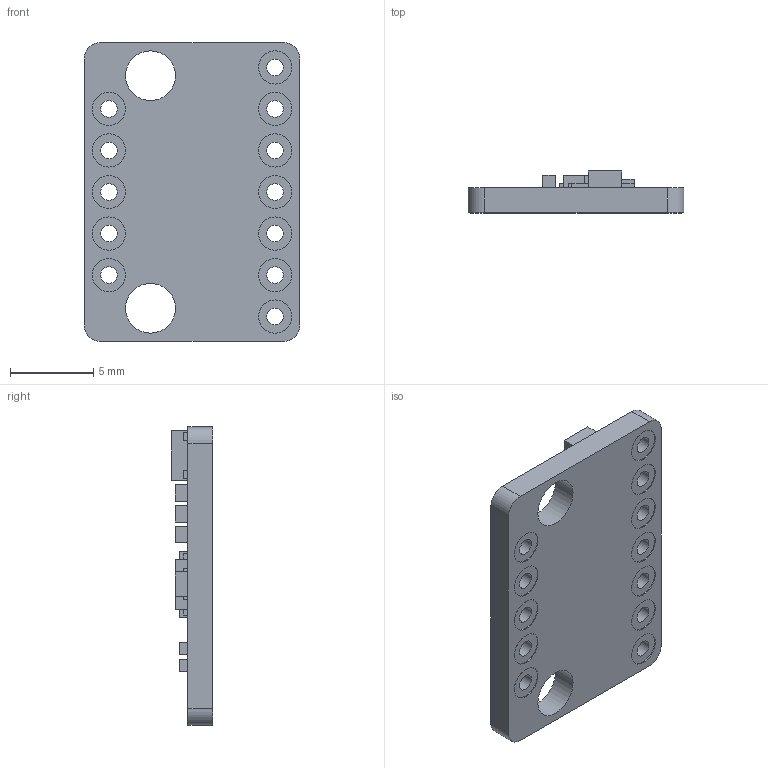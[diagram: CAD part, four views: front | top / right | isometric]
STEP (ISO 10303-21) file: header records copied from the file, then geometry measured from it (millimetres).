
FILE_DESCRIPTION(/* description */ ('STEP AP242 Edition 2','CAx-IF Rec.Pracs.---Representation and Presentation of Product Manufacturing Information (PMI)---4.0---2014-10-13','CAx-IF Rec.Pracs.---3D Tessellated Geometry---0.4---2014-09-14','2;1','CAx-IF Rec.Pracs.---User Defined Attributes---1.5---2016-08-15'),/* implementation_level */ '2;1');
FILE_NAME(/* name */ 'LSM6DS3 Gyro-Accel - Part 1',/* time_stamp */ '2026-07-09T17:33:01Z',/* author */ (''),/* organization */ (''),/* preprocessor_version */ 'ST-DEVELOPER v20',/* originating_system */ 'ONSHAPE BY PTC INC, 1.217',/* authorisation */ ' ');
FILE_SCHEMA (('AP242_MANAGED_MODEL_BASED_3D_ENGINEERING_MIM_LF { 1 0 10303 442 3 1 4 }'));
Length unit declared in the file: metre
Products named in the file (1): Part 1
Bounding box: 13 x 2.5 x 18 mm (x, y, z)
Volume: 331.4 mm3; surface area: 646.9 mm2
Topology: 1 solids, 1 shells, 534 faces, 1467 edges, 978 vertices
Faces by surface type: cylinder 311, plane 223
Full cylindrical faces by diameter (mm): 1 x12, 2 x24, 3 x2
Entity records: 18163 total; most frequent: DIRECTION 3121, CARTESIAN_POINT 2942, ORIENTED_EDGE 2858, EDGE_CURVE 1429, AXIS2_PLACEMENT_3D 1157, VERTEX_POINT 978, LINE 807, VECTOR 807
